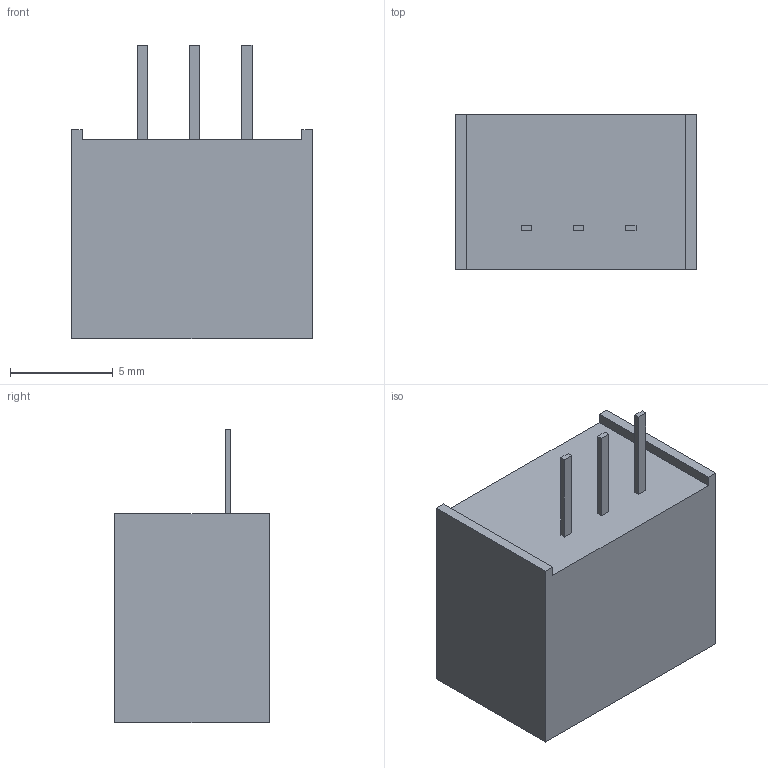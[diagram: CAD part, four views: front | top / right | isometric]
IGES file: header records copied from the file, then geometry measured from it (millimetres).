
Start section: SolidWorks IGES file using analytic representation for surfaces
Global section: file name: G:\Berran Hooper\Steps\SR05.IGS; native system: SolidWorks 2015; preprocessor: SolidWorks 2015; author: bhooper; date: 150722.151326; units: millimetre
Bounding box: 11.68 x 7.5 x 14.26 mm (x, y, z)
Surface area: 582.5 mm2 (no closed solid volume)
Topology: 0 solids, 0 shells, 25 faces, 120 edges, 120 vertices
Faces by surface type: bspline 25
